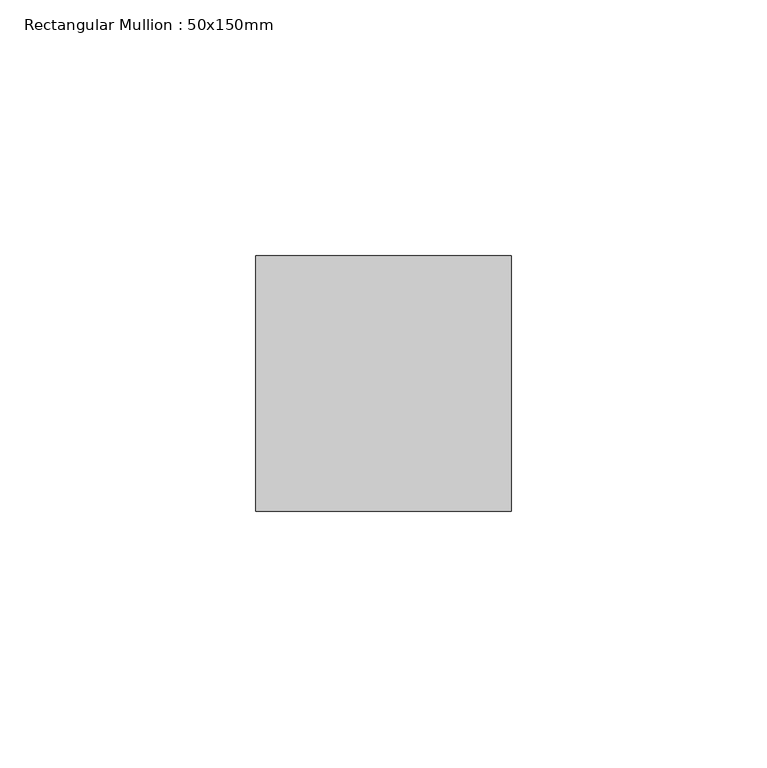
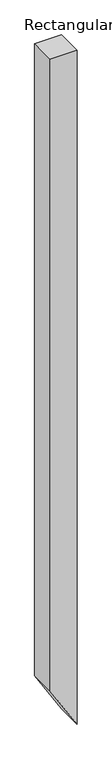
"""IFC4 building model written with IfcOpenShell, lengths in millimetres: member geometry, Rectangular Mullion : 50x150mm."""

from ifc_helpers import new_model, si_unit, frame, origin, place, context, project, spatial, polyline, outline, extrude, source, transform, mapped, element, save


def rectangular_mullion_50x150mm_f55a7c15(model_context):
    return source(origin(), model_context, "Body", "SweptSolid", [
        extrude(outline(polyline([(0.0, 0.0), (0.0, -50.0), (-1246.2062108, -50.0), (-1329.0399753, 0.0), (0.0, 0.0)])), frame((0.0, -25.0, 0.0), z_axis=(0.0, 1.0, 0.0), x_axis=(0.0, 0.0, 1.0)), (0.0, 0.0, 1.0), 50.0),
    ])


if __name__ == "__main__":
    model = new_model("IFC4")
    model_context = context("Model", 3, world=origin())
    ifc_project = project(units=[si_unit("LENGTHUNIT", "METRE", prefix="MILLI")], contexts=[model_context])
    site = spatial("IfcSite", under=ifc_project)
    building = spatial("IfcBuilding", under=site)
    placement = place(None, origin())
    rectangular_mullion_50x150mm_shape = rectangular_mullion_50x150mm_f55a7c15(model_context)
    element("IfcMember", 1, ObjectType="Rectangular Mullion : 50x150mm", at=placement, inside=building, context=model_context, shape_type="MappedRepresentation", body=[
        mapped(rectangular_mullion_50x150mm_shape, transform((0.0, 0.0, 0.0), x_axis=(1.0, 0.0, 0.0), y_axis=(0.0, 1.0, 0.0), z_axis=(0.0, 0.0, 1.0))),
    ])
    save(model, "model.ifc")
